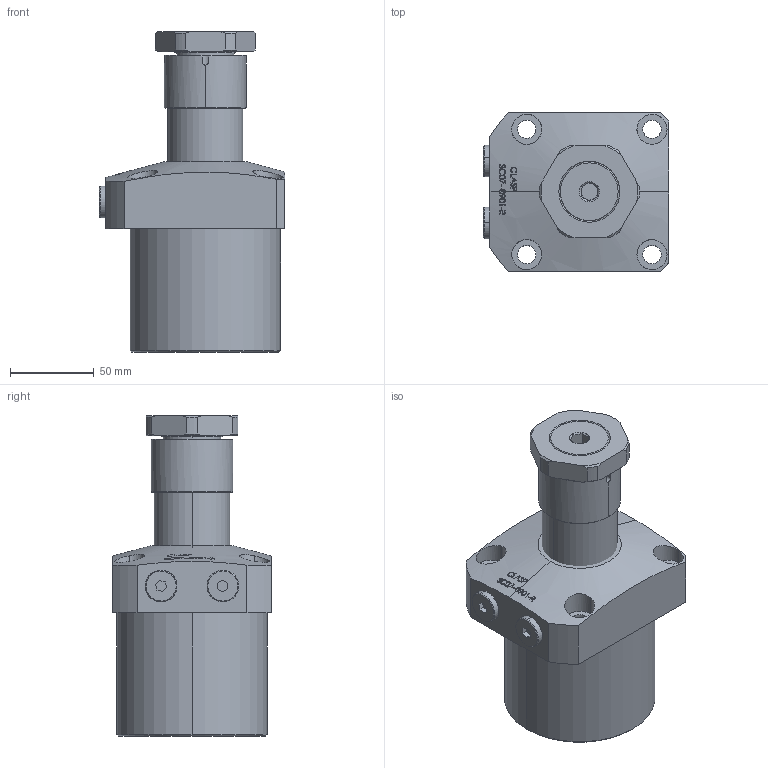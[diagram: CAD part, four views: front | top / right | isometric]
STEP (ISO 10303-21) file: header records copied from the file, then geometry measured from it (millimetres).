
FILE_DESCRIPTION (( 'STEP AP203' ), '1' );
FILE_NAME ('SC07-0901-R.STEP', '2022-07-05T16:55:20', ( '' ), ( '' ), 'SwSTEP 2.0', 'SolidWorks 2017', '' );
FILE_SCHEMA (( 'CONFIG_CONTROL_DESIGN' ));
Length unit declared in the file: millimetre
Products named in the file (6): sc-07-0901-04 sleeve; SC-07-0901-L BODY; sc-07-0901-03-nut; SC-07-0901-Piston; SC07-0901-R; sc-07-0901-05 plug
Assembly tree (6 placements, depth 2):
  SC07-0901-R
    SC-07-0901-L BODY
    SC-07-0901-Piston
    sc-07-0901-05 plug  x2
    sc-07-0901-04 sleeve
    sc-07-0901-03-nut
Bounding box: 111 x 95 x 192 mm (x, y, z)
Volume: 974600.1 mm3; surface area: 95169 mm2
Topology: 6 solids, 6 shells, 367 faces, 911 edges, 597 vertices
Faces by surface type: plane 157, bspline 95, cylinder 62, cone 51, sphere 2
Entity records: 16939 total; most frequent: CARTESIAN_POINT 8622, ORIENTED_EDGE 1758, DIRECTION 1242, EDGE_CURVE 879, VERTEX_POINT 577, AXIS2_PLACEMENT_3D 424, EDGE_LOOP 404, VECTOR 394
